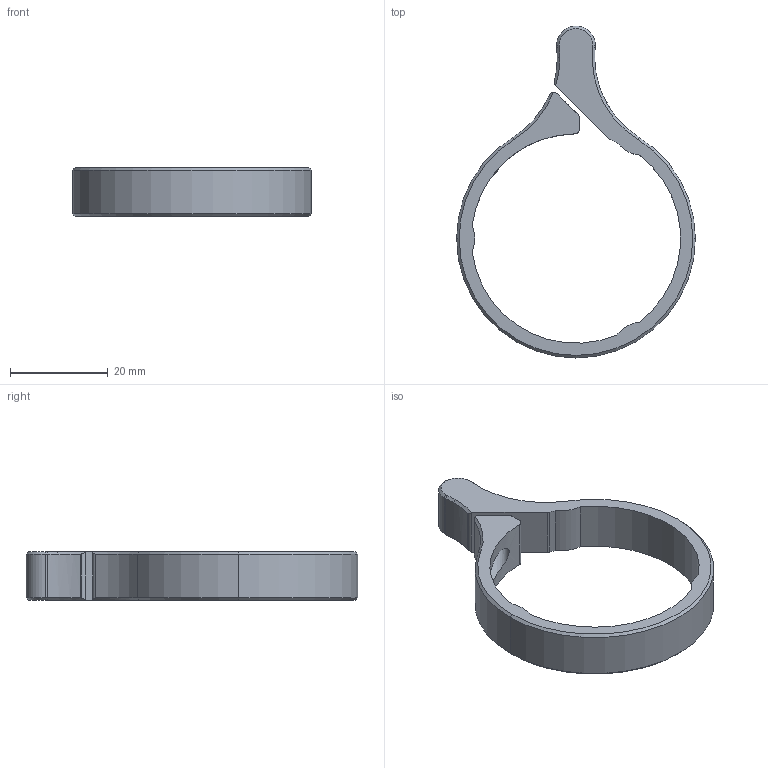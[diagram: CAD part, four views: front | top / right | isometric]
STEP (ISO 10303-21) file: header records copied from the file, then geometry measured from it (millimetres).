
FILE_DESCRIPTION (( 'STEP AP214' ), '1' );
FILE_NAME ('PA 4-14x44 FFP Mil-Dot Throw Lever.STEP', '2020-01-13T17:48:35', ( '' ), ( '' ), 'SwSTEP 2.0', 'SolidWorks 2017', '' );
FILE_SCHEMA (( 'AUTOMOTIVE_DESIGN' ));
Length unit declared in the file: inch
Products named in the file (1): PA 4-14x44 FFP Mil-Dot Throw Lever
Bounding box: 48.79 x 67.84 x 10 mm (x, y, z)
Volume: 5688.9 mm3; surface area: 4663.6 mm2
Topology: 1 solids, 1 shells, 59 faces, 148 edges, 93 vertices
Faces by surface type: cylinder 31, cone 20, plane 8
Entity records: 1951 total; most frequent: CARTESIAN_POINT 445, DIRECTION 333, ORIENTED_EDGE 296, EDGE_CURVE 148, AXIS2_PLACEMENT_3D 137, VERTEX_POINT 93, CIRCLE 77, EDGE_LOOP 65
